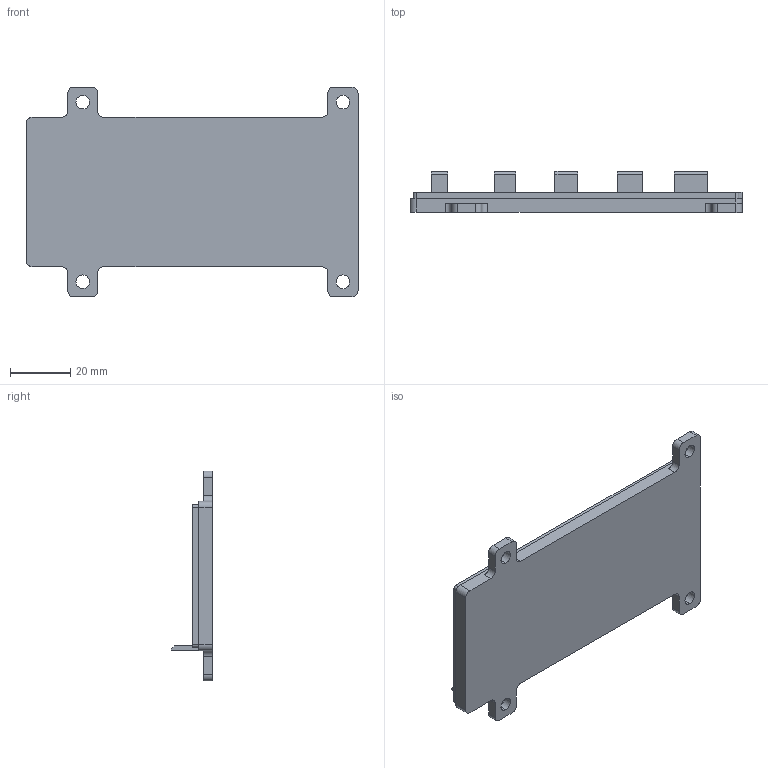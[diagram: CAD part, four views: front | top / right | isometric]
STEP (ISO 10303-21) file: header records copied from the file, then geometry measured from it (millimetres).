
FILE_DESCRIPTION (( 'STEP AP214' ), '1' );
FILE_NAME ('StationaryLogger_Enclosure_V4_MountingSide.STEP', '2025-05-08T20:31:58', ( '' ), ( '' ), 'SwSTEP 2.0', 'SolidWorks 2024', '' );
FILE_SCHEMA (( 'AUTOMOTIVE_DESIGN' ));
Length unit declared in the file: millimetre
Products named in the file (1): StationaryLogger_Enclosure_V4_MountingSide
Bounding box: 110 x 13.6 x 69.5 mm (x, y, z)
Volume: 15133.1 mm3; surface area: 16427.7 mm2
Topology: 1 solids, 1 shells, 147 faces, 393 edges, 254 vertices
Faces by surface type: plane 73, cylinder 54, torus 10, cone 10
Entity records: 4742 total; most frequent: CARTESIAN_POINT 947, DIRECTION 805, ORIENTED_EDGE 786, EDGE_CURVE 393, AXIS2_PLACEMENT_3D 280, VERTEX_POINT 254, LINE 245, VECTOR 245
